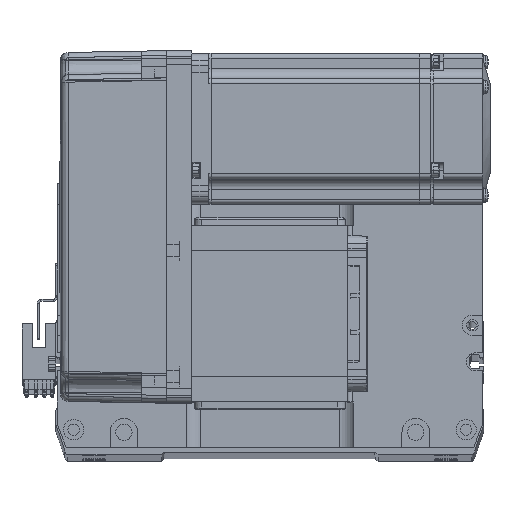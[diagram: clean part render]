
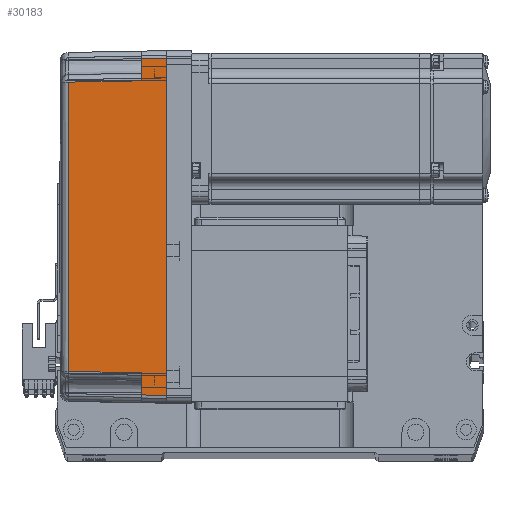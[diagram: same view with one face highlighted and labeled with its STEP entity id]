
A CAD part, top view. The second image highlights one B-rep face of the part: STEP entity #30183.
In plain terms, the highlighted planar face has unit normal (-0.018, 0, 1) as drawn and (0, 1, 0.017) by its records, which use the part's own axes.
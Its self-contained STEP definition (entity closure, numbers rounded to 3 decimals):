
#1313 = CARTESIAN_POINT ( 'NONE',  ( 67.001, 36.001, -0.052 ) ) ;
#2352 = CARTESIAN_POINT ( 'NONE',  ( -58., 35.825, 10. ) ) ;
#3211 = CARTESIAN_POINT ( 'NONE',  ( -67., 36., 0. ) ) ;
#3893 = LINE ( 'NONE', #1313, #57766 ) ;
#5708 = EDGE_CURVE ( 'NONE', #48712, #48717, #16600, .T. ) ;
#6853 = ORIENTED_EDGE ( 'NONE', *, *, #60226, .T. ) ;
#7000 = DIRECTION ( 'NONE',  ( -0.017, -0.017, 1. ) ) ;
#7140 = EDGE_CURVE ( 'NONE', #21978, #53366, #3893, .T. ) ;
#7799 = ORIENTED_EDGE ( 'NONE', *, *, #15110, .T. ) ;
#8483 = LINE ( 'NONE', #23348, #13976 ) ;
#8979 = ORIENTED_EDGE ( 'NONE', *, *, #7140, .F. ) ;
#9224 = CARTESIAN_POINT ( 'NONE',  ( -19.165, 35.316, 39.181 ) ) ;
#9448 = CARTESIAN_POINT ( 'NONE',  ( 58., 35.825, 10. ) ) ;
#9558 = LINE ( 'NONE', #63977, #60974 ) ;
#10003 = ORIENTED_EDGE ( 'NONE', *, *, #5708, .T. ) ;
#10026 = PLANE ( 'NONE',  #17806 ) ;
#10056 = VECTOR ( 'NONE', #46712, 1000. ) ;
#12054 = ORIENTED_EDGE ( 'NONE', *, *, #60329, .F. ) ;
#13148 = VECTOR ( 'NONE', #60610, 1000. ) ;
#13976 = VECTOR ( 'NONE', #62744, 1000. ) ;
#15000 = CARTESIAN_POINT ( 'NONE',  ( 70., 36., 0. ) ) ;
#15110 = EDGE_CURVE ( 'NONE', #16646, #53366, #50638, .T. ) ;
#16583 = CARTESIAN_POINT ( 'NONE',  ( 0., 36., 0. ) ) ;
#16600 = LINE ( 'NONE', #55323, #18900 ) ;
#16646 = VERTEX_POINT ( 'NONE', #9448 ) ;
#16696 = ORIENTED_EDGE ( 'NONE', *, *, #36657, .T. ) ;
#17806 = AXIS2_PLACEMENT_3D ( 'NONE', #15000, #45538, #49883 ) ;
#18127 = CARTESIAN_POINT ( 'NONE',  ( -57.495, 35.32, 38.985 ) ) ;
#18411 = EDGE_CURVE ( 'NONE', #28658, #48712, #9558, .T. ) ;
#18900 = VECTOR ( 'NONE', #35130, 1000. ) ;
#19119 = DIRECTION ( 'NONE',  ( 1., 0., 0. ) ) ;
#19887 = ORIENTED_EDGE ( 'NONE', *, *, #60490, .T. ) ;
#21231 = FACE_OUTER_BOUND ( 'NONE', #46868, .T. ) ;
#21978 = VERTEX_POINT ( 'NONE', #26941 ) ;
#23348 = CARTESIAN_POINT ( 'NONE',  ( -67., 36., 0. ) ) ;
#26941 = CARTESIAN_POINT ( 'NONE',  ( 67., 36., 0. ) ) ;
#28658 = VERTEX_POINT ( 'NONE', #42759 ) ;
#30183 = ADVANCED_FACE ( 'NONE', ( #21231 ), #10026, .T. ) ;
#35130 = DIRECTION ( 'NONE',  ( 0.017, -0.017, 1. ) ) ;
#35195 = CARTESIAN_POINT ( 'NONE',  ( 57.495, 35.32, 38.985 ) ) ;
#36657 = EDGE_CURVE ( 'NONE', #48717, #56051, #58049, .T. ) ;
#38212 = DIRECTION ( 'NONE',  ( 1., 0., 0. ) ) ;
#41184 = VERTEX_POINT ( 'NONE', #3211 ) ;
#41205 = CARTESIAN_POINT ( 'NONE',  ( 66.826, 35.825, 10. ) ) ;
#42352 = CARTESIAN_POINT ( 'NONE',  ( -57.495, 35.32, 38.985 ) ) ;
#42759 = CARTESIAN_POINT ( 'NONE',  ( -66.826, 35.825, 10. ) ) ;
#45538 = DIRECTION ( 'NONE',  ( 0., 1., 0.017 ) ) ;
#46712 = DIRECTION ( 'NONE',  ( 1., 0., 0. ) ) ;
#46868 = EDGE_LOOP ( 'NONE', ( #19887, #51099, #10003, #16696, #6853, #7799, #8979, #12054 ) ) ;
#47537 = VECTOR ( 'NONE', #38212, 1000. ) ;
#48677 = CARTESIAN_POINT ( 'NONE',  ( 19.165, 35.316, 39.181 ) ) ;
#48712 = VERTEX_POINT ( 'NONE', #2352 ) ;
#48717 = VERTEX_POINT ( 'NONE', #42352 ) ;
#49277 = CARTESIAN_POINT ( 'NONE',  ( 57.495, 35.32, 38.985 ) ) ;
#49823 = LINE ( 'NONE', #16583, #10056 ) ;
#49883 = DIRECTION ( 'NONE',  ( 0., -0.017, 1. ) ) ;
#50638 = LINE ( 'NONE', #63609, #47537 ) ;
#51099 = ORIENTED_EDGE ( 'NONE', *, *, #18411, .T. ) ;
#53366 = VERTEX_POINT ( 'NONE', #41205 ) ;
#54078 = CARTESIAN_POINT ( 'NONE',  ( 57.495, 35.32, 38.985 ) ) ;
#55323 = CARTESIAN_POINT ( 'NONE',  ( -58., 35.825, 10. ) ) ;
#56051 = VERTEX_POINT ( 'NONE', #49277 ) ;
#57766 = VECTOR ( 'NONE', #7000, 1000. ) ;
#58049 = B_SPLINE_CURVE_WITH_KNOTS ( 'NONE', 3,
 ( #18127, #9224, #48677, #54078 ),
 .UNSPECIFIED., .F., .F.,
 ( 4, 4 ),
 ( 0., 1. ),
 .UNSPECIFIED. ) ;
#60226 = EDGE_CURVE ( 'NONE', #56051, #16646, #63848, .T. ) ;
#60329 = EDGE_CURVE ( 'NONE', #41184, #21978, #49823, .T. ) ;
#60490 = EDGE_CURVE ( 'NONE', #41184, #28658, #8483, .T. ) ;
#60610 = DIRECTION ( 'NONE',  ( 0.017, 0.017, -1. ) ) ;
#60974 = VECTOR ( 'NONE', #19119, 1000. ) ;
#62744 = DIRECTION ( 'NONE',  ( 0.017, -0.017, 1. ) ) ;
#63609 = CARTESIAN_POINT ( 'NONE',  ( 70., 35.825, 10. ) ) ;
#63848 = LINE ( 'NONE', #35195, #13148 ) ;
#63977 = CARTESIAN_POINT ( 'NONE',  ( 70., 35.825, 10. ) ) ;
